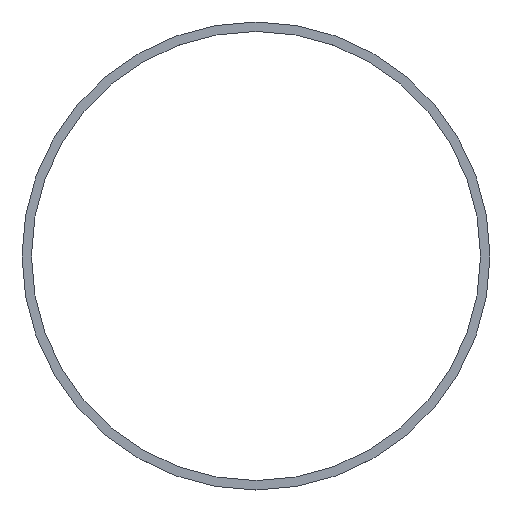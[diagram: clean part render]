
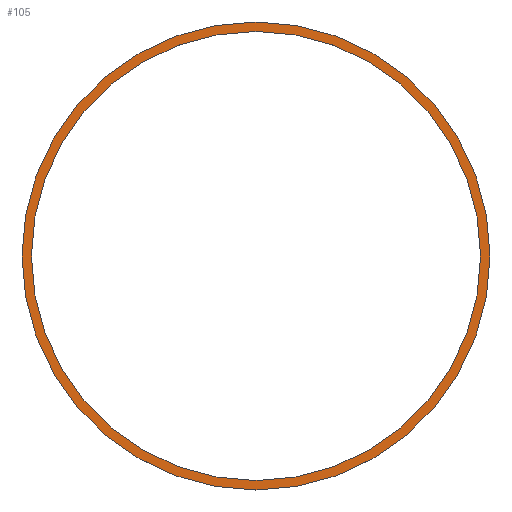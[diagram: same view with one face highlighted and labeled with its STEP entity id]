
A CAD part, top view. The second image highlights one B-rep face of the part: STEP entity #105.
In plain terms, the highlighted planar face has unit normal (0, 0, 1).
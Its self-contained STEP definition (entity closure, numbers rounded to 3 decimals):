
#21 = EDGE_CURVE('',#22,#22,#24,.T.);
#22 = VERTEX_POINT('',#23);
#23 = CARTESIAN_POINT('',(19.8,42.,-2.2));
#24 = SURFACE_CURVE('',#25,(#30,#42),.PCURVE_S1.);
#25 = CIRCLE('',#26,19.8);
#26 = AXIS2_PLACEMENT_3D('',#27,#28,#29);
#27 = CARTESIAN_POINT('',(0.,42.,-2.2));
#28 = DIRECTION('',(0.,0.,1.));
#29 = DIRECTION('',(1.,0.,-0.));
#30 = PCURVE('',#31,#36);
#31 = CYLINDRICAL_SURFACE('',#32,19.8);
#32 = AXIS2_PLACEMENT_3D('',#33,#34,#35);
#33 = CARTESIAN_POINT('',(0.,42.,-2.5));
#34 = DIRECTION('',(0.,0.,1.));
#35 = DIRECTION('',(1.,0.,-0.));
#36 = DEFINITIONAL_REPRESENTATION('',(#37),#41);
#37 = LINE('',#38,#39);
#38 = CARTESIAN_POINT('',(0.,0.3));
#39 = VECTOR('',#40,1.);
#40 = DIRECTION('',(1.,0.));
#41 = ( GEOMETRIC_REPRESENTATION_CONTEXT(2) 
PARAMETRIC_REPRESENTATION_CONTEXT() REPRESENTATION_CONTEXT('2D SPACE',''
  ) );
#42 = PCURVE('',#43,#48);
#43 = PLANE('',#44);
#44 = AXIS2_PLACEMENT_3D('',#45,#46,#47);
#45 = CARTESIAN_POINT('',(0.,42.,-2.2));
#46 = DIRECTION('',(0.,0.,1.));
#47 = DIRECTION('',(1.,0.,-0.));
#48 = DEFINITIONAL_REPRESENTATION('',(#49),#53);
#49 = CIRCLE('',#50,19.8);
#50 = AXIS2_PLACEMENT_2D('',#51,#52);
#51 = CARTESIAN_POINT('',(0.,0.));
#52 = DIRECTION('',(1.,0.));
#53 = ( GEOMETRIC_REPRESENTATION_CONTEXT(2) 
PARAMETRIC_REPRESENTATION_CONTEXT() REPRESENTATION_CONTEXT('2D SPACE',''
  ) );
#105 = ADVANCED_FACE('',(#106,#109),#43,.T.);
#106 = FACE_BOUND('',#107,.T.);
#107 = EDGE_LOOP('',(#108));
#108 = ORIENTED_EDGE('',*,*,#21,.T.);
#109 = FACE_BOUND('',#110,.T.);
#110 = EDGE_LOOP('',(#111));
#111 = ORIENTED_EDGE('',*,*,#112,.F.);
#112 = EDGE_CURVE('',#113,#113,#115,.T.);
#113 = VERTEX_POINT('',#114);
#114 = CARTESIAN_POINT('',(19.,42.,-2.2));
#115 = SURFACE_CURVE('',#116,(#121,#128),.PCURVE_S1.);
#116 = CIRCLE('',#117,19.);
#117 = AXIS2_PLACEMENT_3D('',#118,#119,#120);
#118 = CARTESIAN_POINT('',(0.,42.,-2.2));
#119 = DIRECTION('',(0.,0.,1.));
#120 = DIRECTION('',(1.,0.,-0.));
#121 = PCURVE('',#43,#122);
#122 = DEFINITIONAL_REPRESENTATION('',(#123),#127);
#123 = CIRCLE('',#124,19.);
#124 = AXIS2_PLACEMENT_2D('',#125,#126);
#125 = CARTESIAN_POINT('',(0.,0.));
#126 = DIRECTION('',(1.,0.));
#127 = ( GEOMETRIC_REPRESENTATION_CONTEXT(2) 
PARAMETRIC_REPRESENTATION_CONTEXT() REPRESENTATION_CONTEXT('2D SPACE',''
  ) );
#128 = PCURVE('',#129,#134);
#129 = CYLINDRICAL_SURFACE('',#130,19.);
#130 = AXIS2_PLACEMENT_3D('',#131,#132,#133);
#131 = CARTESIAN_POINT('',(0.,42.,-2.6));
#132 = DIRECTION('',(0.,0.,1.));
#133 = DIRECTION('',(1.,0.,-0.));
#134 = DEFINITIONAL_REPRESENTATION('',(#135),#139);
#135 = LINE('',#136,#137);
#136 = CARTESIAN_POINT('',(0.,0.4));
#137 = VECTOR('',#138,1.);
#138 = DIRECTION('',(1.,0.));
#139 = ( GEOMETRIC_REPRESENTATION_CONTEXT(2) 
PARAMETRIC_REPRESENTATION_CONTEXT() REPRESENTATION_CONTEXT('2D SPACE',''
  ) );
